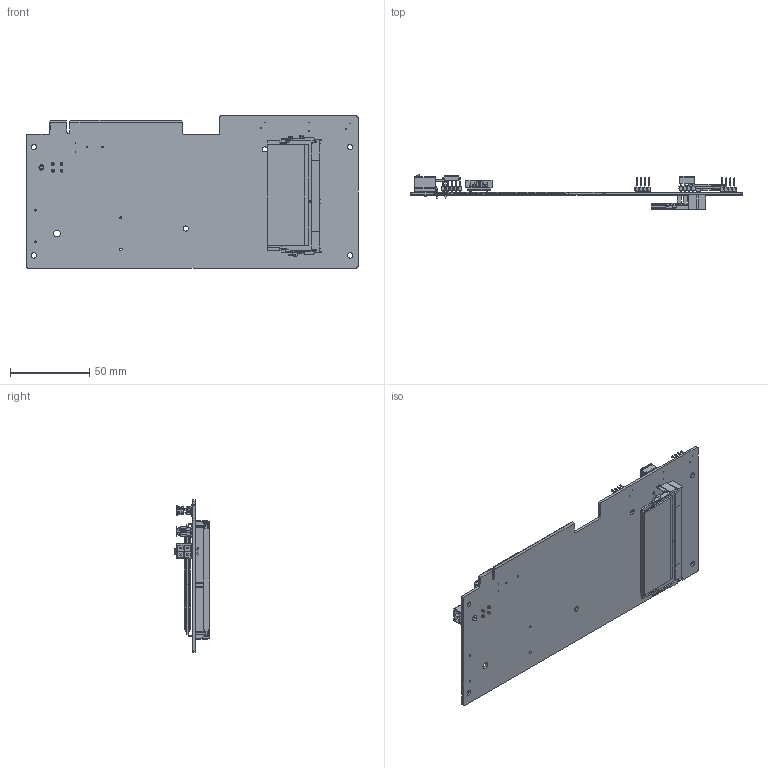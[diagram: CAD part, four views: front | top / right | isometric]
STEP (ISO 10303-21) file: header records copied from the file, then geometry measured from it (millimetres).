
FILE_DESCRIPTION((''),'2;1');
FILE_NAME('04_CPU_PCB_ASM_CSGR_ASM','2019-02-13T',('calvi'),(''),'CREO PARAMETRIC BY PTC INC, 2015480','CREO PARAMETRIC BY PTC INC, 2015480','');
FILE_SCHEMA(('CONFIG_CONTROL_DESIGN'));
Products named in the file (11): 04_CPU_BOARD_CSGR; AS0A826-H2RB-7H_317-0000-2253_D; DDR_SO_DIMM_MODULE_BOARD; ASAA821-EARB0-7H_3D_P; ASAA821-EARB0-7H_3D_ASM; HS5507F-R; HS1104_V_RN_X1; HS1105F-RN; S-20438-04021; 026013115; 04_CPU_PCB_ASM_CSGR_ASM
Assembly tree (12 placements, depth 3):
  04_CPU_PCB_ASM_CSGR_ASM
    04_CPU_BOARD_CSGR
    AS0A826-H2RB-7H_317-0000-2253_D
    DDR_SO_DIMM_MODULE_BOARD
    ASAA821-EARB0-7H_3D_ASM
      ASAA821-EARB0-7H_3D_P
      DDR_SO_DIMM_MODULE_BOARD
    HS5507F-R
    HS1104_V_RN_X1
    HS1105F-RN
    S-20438-04021  x2
    026013115
Bounding box: 210 x 22.25 x 96.2 mm (x, y, z)
Volume: 50834.6 mm3; surface area: 57652.9 mm2
Topology: 12 solids, 12 shells, 3628 faces, 9751 edges, 6412 vertices
Faces by surface type: plane 3178, cylinder 405, bspline 29, cone 12, extrusion 2, torus 2
Entity records: 106640 total; most frequent: CARTESIAN_POINT 17216, ORIENTED_EDGE 15194, DIRECTION 13731, EDGE_CURVE 7597, VECTOR 6651, LINE 6649, VERTEX_POINT 4992, PRESENTATION_STYLE_ASSIGNMENT 4425
